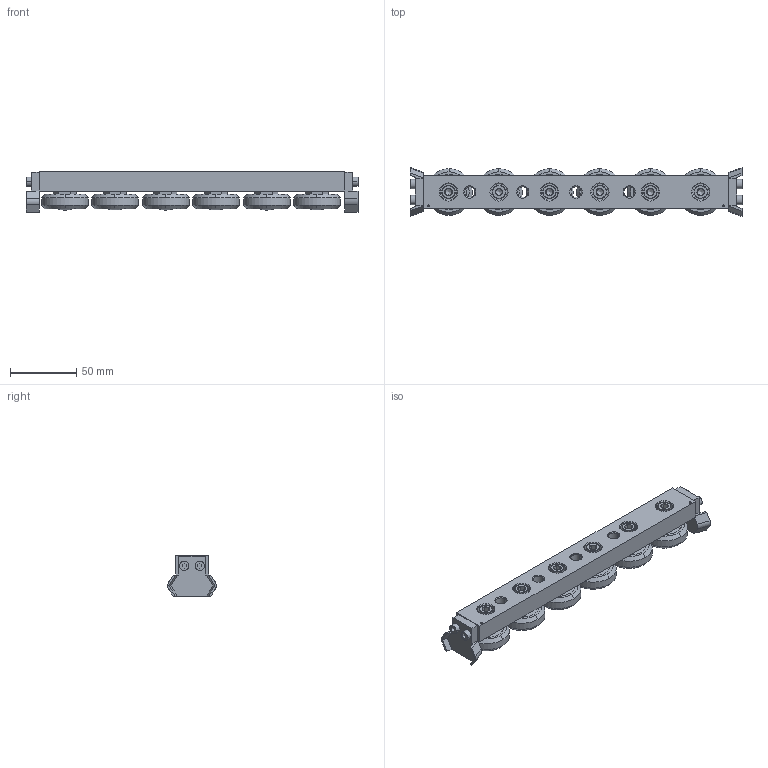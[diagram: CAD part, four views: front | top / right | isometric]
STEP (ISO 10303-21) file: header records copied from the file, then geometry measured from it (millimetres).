
FILE_DESCRIPTION (( 'STEP AP203' ), '1' );
FILE_NAME ('L1943.CSW43-230-2ZTA.step', '2019-03-13T08:18:28', ( '' ), ( '' ), 'SwSTEP 2.0', 'SolidWorks 2017', '' );
FILE_SCHEMA (( 'CONFIG_CONTROL_DESIGN' ));
Length unit declared in the file: millimetre
Products named in the file (6): L1943.CSW43-230-2ZTA; Part3; Part8; Part2; Part1_L1943.CSW43-230-2ZTA; Part6
Assembly tree (15 placements, depth 2):
  L1943.CSW43-230-2ZTA
    Part1_L1943.CSW43-230-2ZTA
    Part8  x6
    Part2  x3
    Part3  x3
    Part6  x2
Bounding box: 250 x 36.78 x 30.5 mm (x, y, z)
Volume: 145510.1 mm3; surface area: 50449.3 mm2
Topology: 15 solids, 15 shells, 565 faces, 1258 edges, 768 vertices
Faces by surface type: plane 248, cone 192, cylinder 104, torus 12, bspline 9
Entity records: 7924 total; most frequent: CARTESIAN_POINT 1424, DIRECTION 1263, ORIENTED_EDGE 1078, EDGE_CURVE 539, AXIS2_PLACEMENT_3D 488, VERTEX_POINT 341, EDGE_LOOP 294, LINE 287
